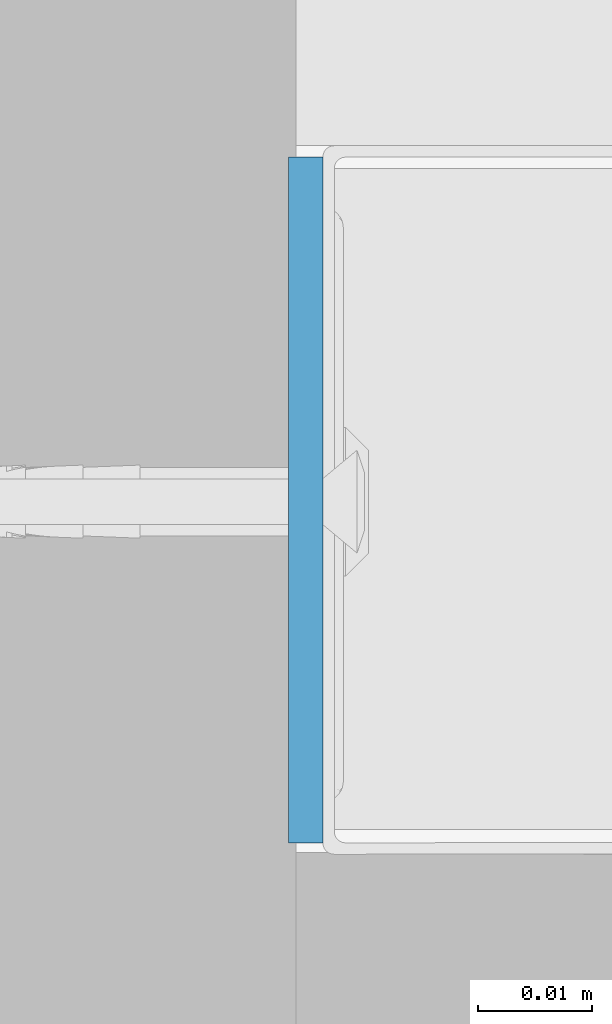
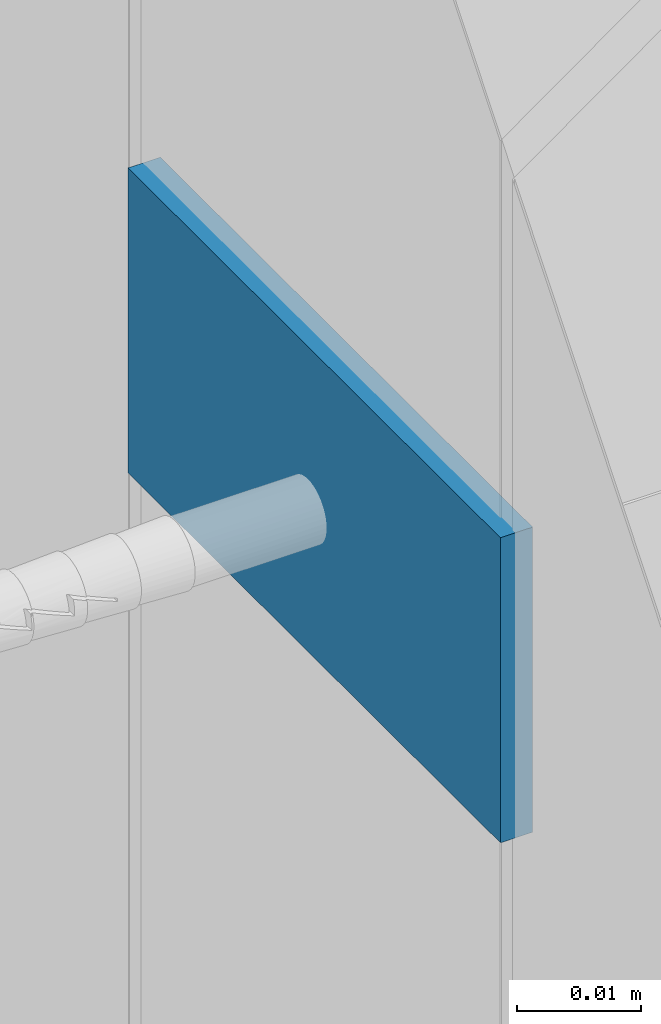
# One storey, part 33 of 67: 1 wall.
"""IFC2X3 building model written with IfcOpenShell, lengths in millimetres."""

import ifcopenshell
import ifcopenshell.guid

model = None  # the IFC model being written
_history = None  # IfcOwnerHistory: only IFC2X3 demands one
_inside = {}  # id of a spatial element -> (the spatial element, [elements in it])
_under = {}  # id of a project, library or spatial element -> (it, [spatial elements below it])
_declared = {}  # id of a project -> (the project, [libraries it declares])
_typed = {}  # id of a type object -> (the type object, [elements of that type])
_made_of = {}  # id of a material, layer set ... -> (it, [elements and type objects made of it])


def new_model(schema):
    """Start an empty IFC model of exactly this schema.

    Asked for "IFC4X3", IfcOpenShell would pick the latest addendum, in which some entities
    have other attributes; the version numbers below select the first issue.
    IFC2X3 requires an IfcOwnerHistory on every rooted entity: one is made here for all.
    """
    global model, _history
    if schema == "IFC4X3":
        model = ifcopenshell.file(schema_version=(4, 3, 0, 0))
    else:
        model = ifcopenshell.file(schema=schema)
    _inside.clear()
    _under.clear()
    _declared.clear()
    _typed.clear()
    _made_of.clear()
    _history = None
    if model.schema == "IFC2X3":
        org = make("IfcOrganization", Name="unknown")
        user = make(
            "IfcPersonAndOrganization",
            ThePerson=make("IfcPerson", FamilyName="unknown"),
            TheOrganization=org,
        )
        app = make(
            "IfcApplication",
            ApplicationDeveloper=org,
            Version="unknown",
            ApplicationFullName="unknown",
            ApplicationIdentifier="unknown",
        )
        _history = make(
            "IfcOwnerHistory",
            OwningUser=user,
            OwningApplication=app,
            ChangeAction="ADDED",
            CreationDate=0,
        )
    return model


def make(cls, **values):
    """One entity of the class cls with the attributes given. An attribute that is None is left unset."""
    return model.create_entity(
        cls, **{name: value for name, value in values.items() if value is not None}
    )


def rooted(cls, **values):
    """An entity with a GlobalId (a new one), such as an element, a storey or a relation."""
    return make(cls, GlobalId=ifcopenshell.guid.new(), OwnerHistory=_history, **values)


def si_unit(unit_type, name, prefix=None):
    """IfcSIUnit, for example si_unit("LENGTHUNIT", "METRE", prefix="MILLI")."""
    return make("IfcSIUnit", UnitType=unit_type, Prefix=prefix, Name=name)


def assignment(units):
    """IfcUnitAssignment: the units of a project."""
    return None if units is None else make("IfcUnitAssignment", Units=units)


def point(xyz):
    """IfcCartesianPoint."""
    return None if xyz is None else make("IfcCartesianPoint", Coordinates=xyz)


def direction(xyz):
    """IfcDirection."""
    return None if xyz is None else make("IfcDirection", DirectionRatios=xyz)


def frame(location, z_axis=None, x_axis=None):
    """IfcAxis2Placement3D, a coordinate frame: its origin and axes. An axis left out is left unset."""
    return make(
        "IfcAxis2Placement3D",
        Location=point(location),
        Axis=direction(z_axis),
        RefDirection=direction(x_axis),
    )


def origin_with_axes():
    """The frame at (0, 0, 0) with the z axis (0, 0, 1) and the x axis (1, 0, 0) written out."""
    return frame((0.0, 0.0, 0.0), z_axis=(0.0, 0.0, 1.0), x_axis=(1.0, 0.0, 0.0))


def place(relative_to, where):
    """IfcLocalPlacement: puts the frame where relative to a parent placement (None: the world)."""
    return make(
        "IfcLocalPlacement", PlacementRelTo=relative_to, RelativePlacement=where
    )


def context(
    kind, dimensions, precision=None, world=None, true_north=None, identifier=None
):
    """IfcGeometricRepresentationContext, for example the 3D "Model" context."""
    return make(
        "IfcGeometricRepresentationContext",
        ContextIdentifier=identifier,
        ContextType=kind,
        CoordinateSpaceDimension=dimensions,
        Precision=precision,
        WorldCoordinateSystem=world,
        TrueNorth=true_north,
    )


def subcontext(parent, identifier, kind, view, scale=None):
    """IfcGeometricRepresentationSubContext, for example "Body" below "Model"."""
    return make(
        "IfcGeometricRepresentationSubContext",
        ContextIdentifier=identifier,
        ContextType=kind,
        ParentContext=parent,
        TargetScale=scale,
        TargetView=view,
    )


def project(units=None, contexts=None):
    """IfcProject with its units and contexts."""
    return rooted(
        "IfcProject",
        Name="project",
        RepresentationContexts=contexts,
        UnitsInContext=assignment(units),
    )


def spatial(cls, under=None, at=None, **own):
    """A site, building, storey or space (cls), placed at a placement, below another one or the project."""
    s = rooted(cls, ObjectPlacement=at, **own)
    if under is not None:
        _under.setdefault(under.id(), (under, []))[1].append(s)
    return s


def faces_of(points, faces, orient=None, outer=None):
    """IfcFace entities. A face is a list of loops; a loop is a list of indices into points, from 0.

    orient and outer hold one flag for each loop. By default every Orientation is true, the
    first loop of a face is its IfcFaceOuterBound and the others are IfcFaceBound.
    """
    made = []
    for i, loops in enumerate(faces):
        bounds = []
        for j, loop in enumerate(loops):
            is_outer = j == 0 if outer is None else outer[i][j]
            bounds.append(
                make(
                    "IfcFaceOuterBound" if is_outer else "IfcFaceBound",
                    Bound=make("IfcPolyLoop", Polygon=[points[k] for k in loop]),
                    Orientation=True if orient is None else orient[i][j],
                )
            )
        made.append(make("IfcFace", Bounds=bounds))
    return made


def faceted_brep(points, faces, orient=None, outer=None, voids=None):
    """IfcFacetedBrep: a solid bounded by flat faces; with voids (closed shells), ...WithVoids."""
    shared = [point(p) for p in points]
    hull = make("IfcClosedShell", CfsFaces=faces_of(shared, faces, orient, outer))
    if voids is None:
        return make("IfcFacetedBrep", Outer=hull)
    return make(
        "IfcFacetedBrepWithVoids",
        Outer=hull,
        Voids=[
            make(cls, CfsFaces=faces_of(shared, fs, o, b)) for cls, fs, o, b in voids
        ],
    )


def shape(context_of_items, identifier, shape_type, items):
    """IfcShapeRepresentation: the items that make up one representation, for example the "Body"."""
    return make(
        "IfcShapeRepresentation",
        ContextOfItems=context_of_items,
        RepresentationIdentifier=identifier,
        RepresentationType=shape_type,
        Items=items,
    )


def material(Name=None, Category=None):
    """IfcMaterial."""
    return make("IfcMaterial", Name=Name, Category=Category)


def made_of(thing, what):
    """Note that an element or type object is made of a material, layer set ...; save() writes the relation."""
    if what is not None:
        _made_of.setdefault(what.id(), (what, []))[1].append(thing)
    return thing


def type_object(cls, material=None, **own):
    """A type object (cls), such as IfcWallType, which elements share."""
    return made_of(rooted(cls, **own), material)


def element(
    cls,
    number,
    at=None,
    inside=None,
    cuts=None,
    type_object=None,
    material=None,
    context=None,
    identifier="Body",
    shape_type=None,
    held_by="IfcProductDefinitionShape",
    body=None,
    shapes=None,
    **own,
):
    """One element of the class cls, such as IfcWall. Its Tag is "e" and its number.

    at: its placement. inside: the storey or other place that contains it. cuts: it is an
    opening in that element (IfcRelVoidsElement). A single representation is given by context,
    identifier, shape_type and body (its items); several are given by shapes. held_by: the class
    of the entity that holds the representations. save() writes the other relations.
    """
    e = rooted(cls, Tag="e%d" % number, ObjectPlacement=at, **own)
    if body is not None:
        shapes = [shape(context, identifier, shape_type, body)]
    if shapes is not None:
        e.Representation = make(held_by, Representations=shapes)
    if inside is not None:
        _inside.setdefault(inside.id(), (inside, []))[1].append(e)
    if cuts is not None:
        rooted(
            "IfcRelVoidsElement", RelatingBuildingElement=cuts, RelatedOpeningElement=e
        )
    if type_object is not None:
        _typed.setdefault(type_object.id(), (type_object, []))[1].append(e)
    return made_of(e, material)


def aggregate(whole, parts):
    """IfcRelAggregates: a whole, such as a stair, and the parts it consists of."""
    return rooted("IfcRelAggregates", RelatingObject=whole, RelatedObjects=parts)


def save(model, path):
    """Write the relations noted so far, then the file.

    IfcRelAggregates (storeys below a building ...), IfcRelContainedInSpatialStructure (elements
    in a storey), IfcRelDefinesByType, IfcRelAssociatesMaterial and IfcRelDeclares: one each for
    every whole, place, type object, material and project.
    """
    for whole, parts in _under.values():
        aggregate(whole, parts)
    for where, things in _inside.values():
        rooted(
            "IfcRelContainedInSpatialStructure",
            RelatedElements=things,
            RelatingStructure=where,
        )
    for kind, things in _typed.values():
        rooted("IfcRelDefinesByType", RelatedObjects=things, RelatingType=kind)
    for what, things in _made_of.values():
        rooted("IfcRelAssociatesMaterial", RelatedObjects=things, RelatingMaterial=what)
    for by, libraries in _declared.values():
        rooted("IfcRelDeclares", RelatingContext=by, RelatedDefinitions=libraries)
    model.write(path)


model = new_model("IFC2X3")

# Units and contexts
model_context = context("Model", 3, world=origin_with_axes())
body_context = subcontext(model_context, "Body", "Model", "MODEL_VIEW")
ifc_project = project(units=[si_unit("LENGTHUNIT", "METRE", prefix="MILLI"), si_unit("AREAUNIT", "SQUARE_METRE"), si_unit("VOLUMEUNIT", "CUBIC_METRE")], contexts=[model_context])

# Site, building, storey
site_placement = place(None, frame((2152.14102611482, 674.9749105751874, 57.61556563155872), z_axis=(0.0, 0.0, 1.0), x_axis=(-1.1102230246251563e-16, 1.0, 0.0)))
site = spatial("IfcSite", under=ifc_project, at=site_placement, Name="Default Site", CompositionType="ELEMENT")
building_placement = place(site_placement, origin_with_axes())
building = spatial("IfcBuilding", under=site, at=building_placement, Name="Default Building", CompositionType="ELEMENT")
storey_placement = place(building_placement, origin_with_axes())
storey = spatial("IfcBuildingStorey", under=building, at=storey_placement, Name="Default Building Storey", CompositionType="ELEMENT", Elevation=57.61556563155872)

# Wall
ifc_material = material(Name="Default")
wall_type = type_object("IfcWallType", Name="Taśma uszczelniająca piankowa RIGIPS szer.30mm#9", PredefinedType="NOTDEFINED")
wall_placement = place(storey_placement, frame((2208.037086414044, 2019.778611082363, 1278.8496604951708), z_axis=(0.0, 0.0, 1.0), x_axis=(1.0, 0.0, 0.0)))
element("IfcWall", 1, at=wall_placement, inside=storey, type_object=wall_type, material=ifc_material, Name="Taśma uszczelniająca piankowa RIGIPS szer.30mm", context=body_context, shape_type="Brep", body=[
    faceted_brep([(59.99999865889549, 0.0, 4.511946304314e-12), (0.0, 0.0, 0.0), (1.0828671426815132e-12, -2.2379254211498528e-11, -29.999999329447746), (59.99999865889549, -2.2379254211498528e-11, -29.999999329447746), (0.0, 3.000000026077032, 0.0), (1.0828671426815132e-12, 3.000000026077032, -29.999999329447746), (59.99999865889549, 3.000000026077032, 0.0), (59.99999865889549, 3.000000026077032, -29.999999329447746)], [[[0, 1, 2, 3]], [[1, 4, 5, 2]], [[4, 6, 7, 5]], [[6, 0, 3, 7]], [[7, 3, 2, 5]], [[0, 6, 4, 1]]]),
])

save(model, "model.ifc")
